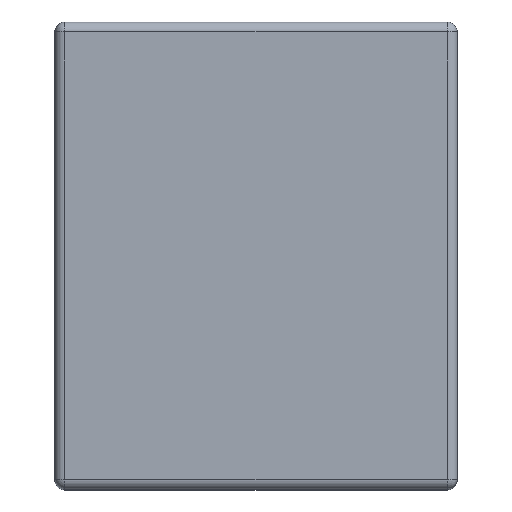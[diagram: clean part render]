
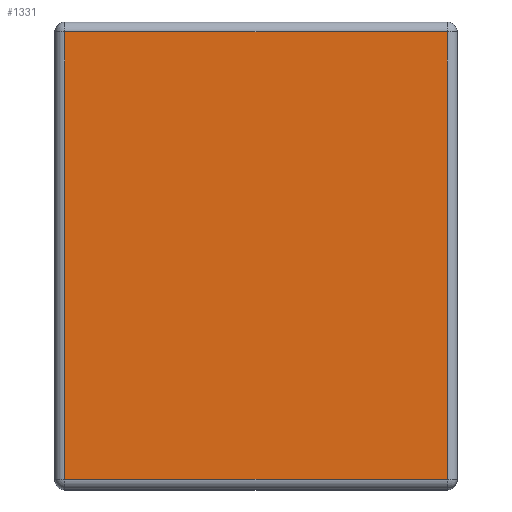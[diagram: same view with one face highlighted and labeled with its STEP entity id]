
A CAD part, top view. The second image highlights one B-rep face of the part: STEP entity #1331.
In plain terms, the highlighted planar face has unit normal (0, 0, 1).
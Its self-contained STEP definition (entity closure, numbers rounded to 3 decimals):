
#39=PLANE('',#1469);
#77=LINE('',#2086,#197);
#83=LINE('',#2109,#203);
#87=LINE('',#2115,#207);
#91=LINE('',#2121,#211);
#197=VECTOR('',#1654,10.);
#203=VECTOR('',#1682,10.);
#207=VECTOR('',#1690,10.);
#211=VECTOR('',#1698,10.);
#371=FACE_OUTER_BOUND('',#460,.T.);
#460=EDGE_LOOP('',(#1040,#1041,#1042,#1043));
#606=VERTEX_POINT('',#2041);
#617=VERTEX_POINT('',#2074);
#620=VERTEX_POINT('',#2081);
#624=VERTEX_POINT('',#2101);
#743=EDGE_CURVE('',#606,#620,#77,.T.);
#755=EDGE_CURVE('',#624,#617,#83,.T.);
#759=EDGE_CURVE('',#620,#624,#87,.T.);
#763=EDGE_CURVE('',#617,#606,#91,.T.);
#1040=ORIENTED_EDGE('',*,*,#755,.F.);
#1041=ORIENTED_EDGE('',*,*,#759,.F.);
#1042=ORIENTED_EDGE('',*,*,#743,.F.);
#1043=ORIENTED_EDGE('',*,*,#763,.F.);
#1331=ADVANCED_FACE('',(#371),#39,.T.);
#1469=AXIS2_PLACEMENT_3D('',#2178,#1749,#1750);
#1654=DIRECTION('',(0.,-1.,0.));
#1682=DIRECTION('',(0.,1.,0.));
#1690=DIRECTION('',(-1.,0.,0.));
#1698=DIRECTION('',(1.,0.,0.));
#1749=DIRECTION('center_axis',(0.,0.,1.));
#1750=DIRECTION('ref_axis',(-1.,0.,0.));
#2041=CARTESIAN_POINT('',(15.3,33.2,16.2));
#2074=CARTESIAN_POINT('',(-15.3,33.2,16.2));
#2081=CARTESIAN_POINT('',(15.3,-2.6,16.2));
#2086=CARTESIAN_POINT('',(15.3,-2.,16.2));
#2101=CARTESIAN_POINT('',(-15.3,-2.6,16.2));
#2109=CARTESIAN_POINT('',(-15.3,-2.,16.2));
#2115=CARTESIAN_POINT('',(8.05,-2.6,16.2));
#2121=CARTESIAN_POINT('',(8.05,33.2,16.2));
#2178=CARTESIAN_POINT('Origin',(16.1,-2.,16.2));
